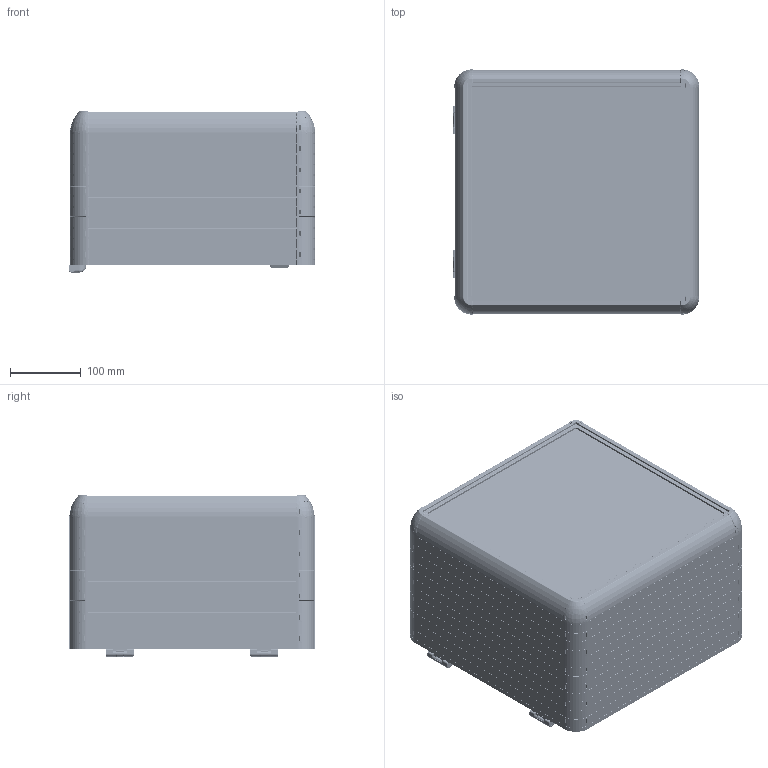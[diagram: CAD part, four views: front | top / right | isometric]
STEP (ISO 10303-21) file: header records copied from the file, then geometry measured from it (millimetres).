
FILE_DESCRIPTION (( 'STEP AP214' ), '1' );
FILE_NAME ('1290-0004.STEP', '2022-04-21T14:12:04', ( '' ), ( '' ), 'SwSTEP 2.0', 'SolidWorks 2022', '' );
FILE_SCHEMA (( 'AUTOMOTIVE_DESIGN' ));
Length unit declared in the file: millimetre
Products named in the file (9): 1290-0004; ARKA_KAPAK_300X300; HPECOX-090-001_295; x90 menteþeli 300X300; ECO90X; 1200-0004; HPECO-120-001-295_295; ECO1200-0000; 300X300
Assembly tree (20 placements, depth 3):
  1290-0004
    1200-0004
      300X300
      HPECO-120-001-295_295  x4
      ECO1200-0000  x4
    x90 menteþeli 300X300
      ARKA_KAPAK_300X300
      ECO90X  x4
      HPECOX-090-001_295  x4
Bounding box: 349.03 x 347 x 227.97 mm (x, y, z)
Volume: 4415743.6 mm3; surface area: 1435424.5 mm2
Topology: 46 solids, 96 shells, 10813 faces, 28360 edges, 17378 vertices
Faces by surface type: plane 3949, cylinder 2812, bspline 2724, cone 790, torus 436, sphere 102
Entity records: 203899 total; most frequent: CARTESIAN_POINT 53902, ORIENTED_EDGE 23628, DIRECTION 19798, EDGE_CURVE 11814, VERTEX_POINT 7292, AXIS2_PLACEMENT_3D 7230, VECTOR 5338, LINE 5338
